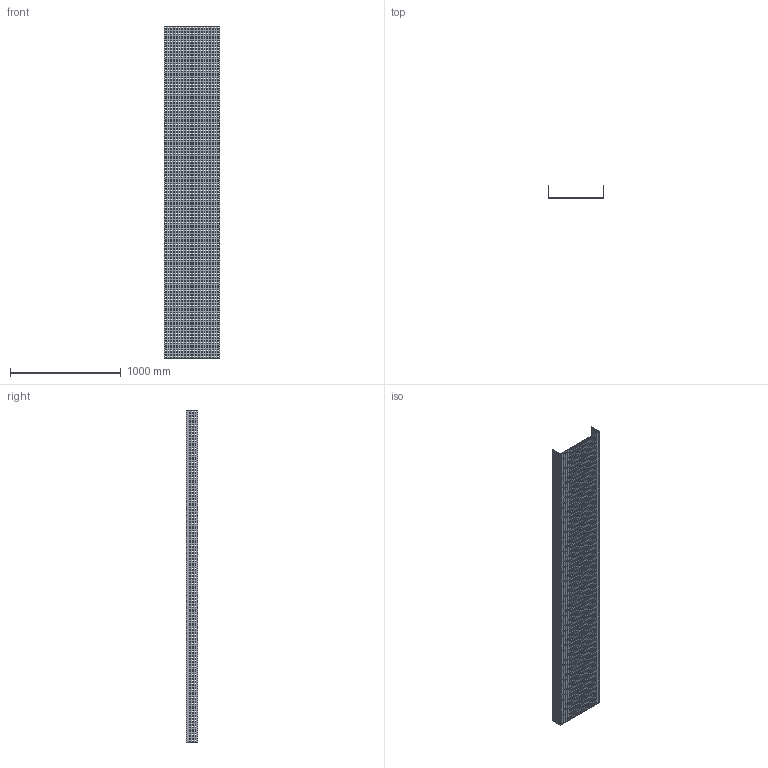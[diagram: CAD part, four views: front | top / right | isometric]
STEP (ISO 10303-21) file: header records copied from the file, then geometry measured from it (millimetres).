
FILE_DESCRIPTION (( 'STEP AP214' ), '1' );
FILE_NAME ('01B3D500.step', '2025-02-21T10:02:31', ( '' ), ( '' ), 'SwSTEP 2.0', 'SolidWorks 2023', '' );
FILE_SCHEMA (( 'AUTOMOTIVE_DESIGN' ));
Products named in the file (1): 01B3D500
Bounding box: 504 x 104 x 3000 mm (x, y, z)
Volume: 6255900 mm3; surface area: 4020063 mm2
Topology: 1 solids, 1 shells, 7498 faces, 22488 edges, 14992 vertices
Faces by surface type: plane 7498
Entity records: 254903 total; most frequent: CARTESIAN_POINT 44979, ORIENTED_EDGE 44976, DIRECTION 37486, LINE 22488, EDGE_CURVE 22488, VECTOR 22488, VERTEX_POINT 14992, EDGE_LOOP 11242
